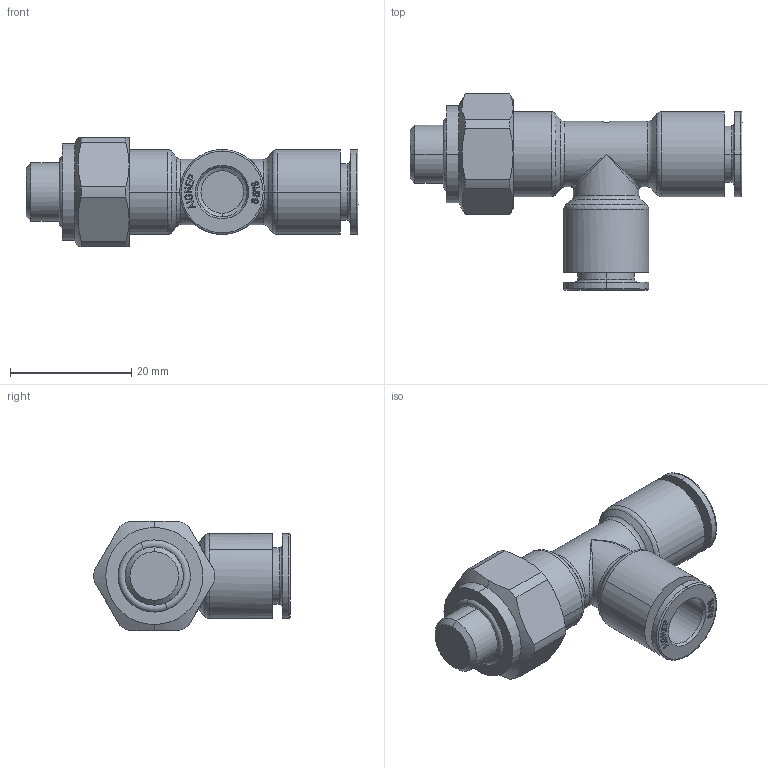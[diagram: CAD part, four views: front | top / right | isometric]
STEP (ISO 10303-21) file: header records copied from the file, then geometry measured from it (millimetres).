
FILE_DESCRIPTION (( 'STEP AP214' ), '1' );
FILE_NAME ('5422700017A.STEP', '2025-07-01T13:28:42', ( '' ), ( '' ), 'SwSTEP 2.0', 'SolidWorks 2020', '' );
FILE_SCHEMA (( 'AUTOMOTIVE_DESIGN' ));
Length unit declared in the file: millimetre
Products named in the file (1): 5422700017A
Bounding box: 54.75 x 32.35 x 18 mm (x, y, z)
Volume: 8474.9 mm3; surface area: 4958.7 mm2
Topology: 1 solids, 3 shells, 393 faces, 993 edges, 644 vertices
Faces by surface type: plane 197, bspline 112, cylinder 38, cone 24, torus 22
Entity records: 21660 total; most frequent: CARTESIAN_POINT 8664, ORIENTED_EDGE 1978, DIRECTION 1433, EDGE_CURVE 989, VERTEX_POINT 644, LINE 603, VECTOR 603, EDGE_LOOP 435
